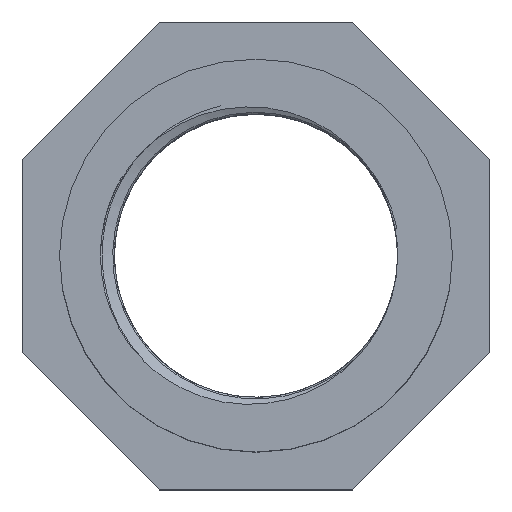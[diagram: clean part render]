
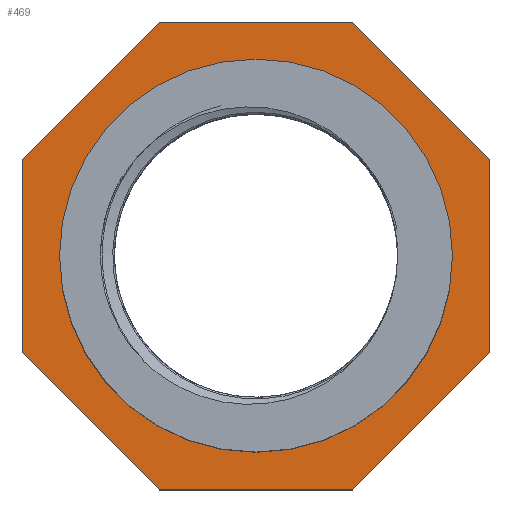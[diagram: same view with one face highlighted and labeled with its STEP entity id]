
A CAD part, top view. The second image highlights one B-rep face of the part: STEP entity #469.
In plain terms, the highlighted planar face has unit normal (0, 0, 1).
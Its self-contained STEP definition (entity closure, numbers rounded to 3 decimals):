
#16=FACE_BOUND('',#107,.T.);
#38=PLANE('',#497);
#49=CIRCLE('',#498,21.);
#76=FACE_OUTER_BOUND('',#106,.T.);
#106=EDGE_LOOP('',(#411,#412,#413,#414,#415,#416,#417,#418));
#107=EDGE_LOOP('',(#419));
#126=LINE('',#7699,#156);
#130=LINE('',#7707,#160);
#133=LINE('',#7713,#163);
#136=LINE('',#7719,#166);
#139=LINE('',#7725,#169);
#142=LINE('',#7731,#172);
#145=LINE('',#7737,#175);
#148=LINE('',#7742,#178);
#156=VECTOR('',#539,20.711);
#160=VECTOR('',#545,20.711);
#163=VECTOR('',#550,20.711);
#166=VECTOR('',#555,20.711);
#169=VECTOR('',#560,20.711);
#172=VECTOR('',#565,20.711);
#175=VECTOR('',#570,20.711);
#178=VECTOR('',#575,20.711);
#224=VERTEX_POINT('',#7697);
#225=VERTEX_POINT('',#7698);
#228=VERTEX_POINT('',#7706);
#230=VERTEX_POINT('',#7712);
#232=VERTEX_POINT('',#7718);
#234=VERTEX_POINT('',#7724);
#236=VERTEX_POINT('',#7730);
#238=VERTEX_POINT('',#7736);
#240=VERTEX_POINT('',#7746);
#280=EDGE_CURVE('',#224,#225,#126,.T.);
#284=EDGE_CURVE('',#228,#224,#130,.T.);
#287=EDGE_CURVE('',#230,#228,#133,.T.);
#290=EDGE_CURVE('',#232,#230,#136,.T.);
#293=EDGE_CURVE('',#234,#232,#139,.T.);
#296=EDGE_CURVE('',#236,#234,#142,.T.);
#299=EDGE_CURVE('',#238,#236,#145,.T.);
#302=EDGE_CURVE('',#225,#238,#148,.T.);
#304=EDGE_CURVE('',#240,#240,#49,.T.);
#411=ORIENTED_EDGE('',*,*,#302,.F.);
#412=ORIENTED_EDGE('',*,*,#280,.F.);
#413=ORIENTED_EDGE('',*,*,#284,.F.);
#414=ORIENTED_EDGE('',*,*,#287,.F.);
#415=ORIENTED_EDGE('',*,*,#290,.F.);
#416=ORIENTED_EDGE('',*,*,#293,.F.);
#417=ORIENTED_EDGE('',*,*,#296,.F.);
#418=ORIENTED_EDGE('',*,*,#299,.F.);
#419=ORIENTED_EDGE('',*,*,#304,.F.);
#469=ADVANCED_FACE('',(#76,#16),#38,.T.);
#497=AXIS2_PLACEMENT_3D('',#7745,#579,#580);
#498=AXIS2_PLACEMENT_3D('',#7747,#581,#582);
#539=DIRECTION('',(1.,0.,0.));
#545=DIRECTION('',(0.707,0.707,0.));
#550=DIRECTION('',(0.,1.,0.));
#555=DIRECTION('',(-0.707,0.707,0.));
#560=DIRECTION('',(-1.,0.,0.));
#565=DIRECTION('',(-0.707,-0.707,0.));
#570=DIRECTION('',(0.,-1.,0.));
#575=DIRECTION('',(0.707,-0.707,0.));
#579=DIRECTION('center_axis',(0.,0.,1.));
#580=DIRECTION('ref_axis',(1.,0.,0.));
#581=DIRECTION('center_axis',(0.,0.,1.));
#582=DIRECTION('ref_axis',(1.,0.,0.));
#7697=CARTESIAN_POINT('',(-10.355,25.,36.));
#7698=CARTESIAN_POINT('',(10.355,25.,36.));
#7699=CARTESIAN_POINT('',(-10.355,25.,36.));
#7706=CARTESIAN_POINT('',(-25.,10.355,36.));
#7707=CARTESIAN_POINT('',(-25.,10.355,36.));
#7712=CARTESIAN_POINT('',(-25.,-10.355,36.));
#7713=CARTESIAN_POINT('',(-25.,-10.355,36.));
#7718=CARTESIAN_POINT('',(-10.355,-25.,36.));
#7719=CARTESIAN_POINT('',(-10.355,-25.,36.));
#7724=CARTESIAN_POINT('',(10.355,-25.,36.));
#7725=CARTESIAN_POINT('',(10.355,-25.,36.));
#7730=CARTESIAN_POINT('',(25.,-10.355,36.));
#7731=CARTESIAN_POINT('',(25.,-10.355,36.));
#7736=CARTESIAN_POINT('',(25.,10.355,36.));
#7737=CARTESIAN_POINT('',(25.,10.355,36.));
#7742=CARTESIAN_POINT('',(10.355,25.,36.));
#7745=CARTESIAN_POINT('Origin',(21.,0.,36.));
#7746=CARTESIAN_POINT('',(21.,0.,36.));
#7747=CARTESIAN_POINT('Origin',(0.,0.,36.));
